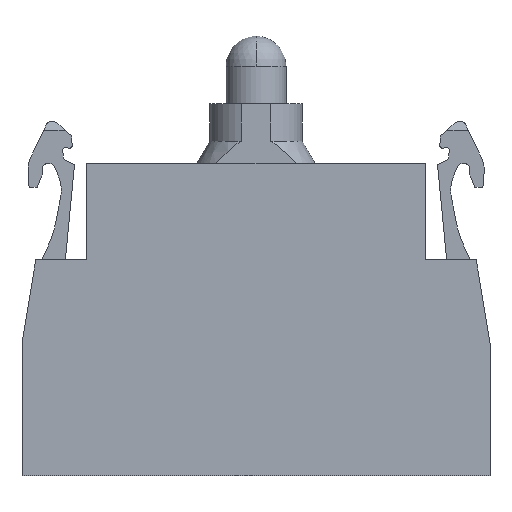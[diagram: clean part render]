
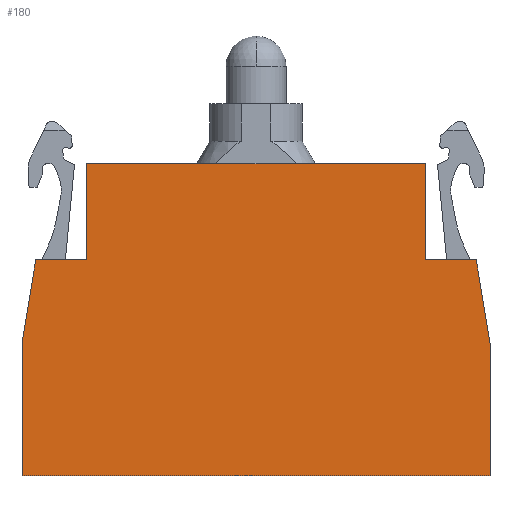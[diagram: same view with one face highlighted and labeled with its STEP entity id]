
A CAD part, left-side view. The second image highlights one B-rep face of the part: STEP entity #180.
In plain terms, the highlighted planar face has unit normal (-1, 0, 0).
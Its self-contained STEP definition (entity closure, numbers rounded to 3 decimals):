
#180 = ADVANCED_FACE( '', ( #397 ), #398, .F. );
#397 = FACE_OUTER_BOUND( '', #615, .T. );
#398 = PLANE( '', #616 );
#615 = EDGE_LOOP( '', ( #1518, #1519, #1520, #1521, #1522, #1523, #1524, #1525, #1526, #1527 ) );
#616 = AXIS2_PLACEMENT_3D( '', #1528, #1529, #1530 );
#1518 = ORIENTED_EDGE( '', *, *, #1827, .F. );
#1519 = ORIENTED_EDGE( '', *, *, #1582, .F. );
#1520 = ORIENTED_EDGE( '', *, *, #1844, .F. );
#1521 = ORIENTED_EDGE( '', *, *, #1841, .F. );
#1522 = ORIENTED_EDGE( '', *, *, #1838, .F. );
#1523 = ORIENTED_EDGE( '', *, *, #1835, .F. );
#1524 = ORIENTED_EDGE( '', *, *, #1823, .F. );
#1525 = ORIENTED_EDGE( '', *, *, #1821, .F. );
#1526 = ORIENTED_EDGE( '', *, *, #1833, .F. );
#1527 = ORIENTED_EDGE( '', *, *, #1830, .F. );
#1528 = CARTESIAN_POINT( '', ( -5., 0., 0. ) );
#1529 = DIRECTION( '', ( 1., 0., 0. ) );
#1530 = DIRECTION( '', ( 0., 0., -1. ) );
#1582 = EDGE_CURVE( '', #1910, #1912, #1913, .T. );
#1821 = EDGE_CURVE( '', #2309, #2311, #2312, .T. );
#1823 = EDGE_CURVE( '', #2311, #2314, #2315, .T. );
#1827 = EDGE_CURVE( '', #1912, #2320, #2321, .T. );
#1830 = EDGE_CURVE( '', #2320, #2325, #2326, .T. );
#1833 = EDGE_CURVE( '', #2325, #2309, #2330, .T. );
#1835 = EDGE_CURVE( '', #2314, #2332, #2333, .T. );
#1838 = EDGE_CURVE( '', #2332, #2337, #2338, .T. );
#1841 = EDGE_CURVE( '', #2337, #2342, #2343, .T. );
#1844 = EDGE_CURVE( '', #2342, #1910, #2347, .T. );
#1910 = VERTEX_POINT( '', #2464 );
#1912 = VERTEX_POINT( '', #2467 );
#1913 = LINE( '', #2468, #2469 );
#2309 = VERTEX_POINT( '', #3048 );
#2311 = VERTEX_POINT( '', #3051 );
#2312 = LINE( '', #3052, #3053 );
#2314 = VERTEX_POINT( '', #3056 );
#2315 = LINE( '', #3057, #3058 );
#2320 = VERTEX_POINT( '', #3066 );
#2321 = LINE( '', #3067, #3068 );
#2325 = VERTEX_POINT( '', #3074 );
#2326 = LINE( '', #3075, #3076 );
#2330 = LINE( '', #3082, #3083 );
#2332 = VERTEX_POINT( '', #3086 );
#2333 = LINE( '', #3087, #3088 );
#2337 = VERTEX_POINT( '', #3094 );
#2338 = LINE( '', #3095, #3096 );
#2342 = VERTEX_POINT( '', #3102 );
#2343 = LINE( '', #3103, #3104 );
#2347 = LINE( '', #3110, #3111 );
#2464 = CARTESIAN_POINT( '', ( -5., 14.1, 26. ) );
#2467 = CARTESIAN_POINT( '', ( -5., -14.1, 26. ) );
#2468 = CARTESIAN_POINT( '', ( -5., 14.1, 26. ) );
#2469 = VECTOR( '', #3184, 1. );
#3048 = CARTESIAN_POINT( '', ( -5., -19.5, 11. ) );
#3051 = CARTESIAN_POINT( '', ( -5., -19.5, 0. ) );
#3052 = CARTESIAN_POINT( '', ( -5., -19.5, 11. ) );
#3053 = VECTOR( '', #3531, 1. );
#3056 = CARTESIAN_POINT( '', ( -5., 19.5, 0. ) );
#3057 = CARTESIAN_POINT( '', ( -5., -19.5, 0. ) );
#3058 = VECTOR( '', #3533, 1. );
#3066 = CARTESIAN_POINT( '', ( -5., -14.1, 18. ) );
#3067 = CARTESIAN_POINT( '', ( -5., -14.1, 26. ) );
#3068 = VECTOR( '', #3537, 1. );
#3074 = CARTESIAN_POINT( '', ( -5., -18.348, 18. ) );
#3075 = CARTESIAN_POINT( '', ( -5., -14.1, 18. ) );
#3076 = VECTOR( '', #3540, 1. );
#3082 = CARTESIAN_POINT( '', ( -5., -18.348, 18. ) );
#3083 = VECTOR( '', #3543, 1. );
#3086 = CARTESIAN_POINT( '', ( -5., 19.5, 11. ) );
#3087 = CARTESIAN_POINT( '', ( -5., 19.5, 0. ) );
#3088 = VECTOR( '', #3545, 1. );
#3094 = CARTESIAN_POINT( '', ( -5., 18.348, 18. ) );
#3095 = CARTESIAN_POINT( '', ( -5., 19.5, 11. ) );
#3096 = VECTOR( '', #3548, 1. );
#3102 = CARTESIAN_POINT( '', ( -5., 14.1, 18. ) );
#3103 = CARTESIAN_POINT( '', ( -5., 18.348, 18. ) );
#3104 = VECTOR( '', #3551, 1. );
#3110 = CARTESIAN_POINT( '', ( -5., 14.1, 18. ) );
#3111 = VECTOR( '', #3554, 1. );
#3184 = DIRECTION( '', ( 0., -1., 0. ) );
#3531 = DIRECTION( '', ( 0., 0., -1. ) );
#3533 = DIRECTION( '', ( 0., 1., 0. ) );
#3537 = DIRECTION( '', ( 0., 0., -1. ) );
#3540 = DIRECTION( '', ( 0., -1., 0. ) );
#3543 = DIRECTION( '', ( 0., -0.162, -0.987 ) );
#3545 = DIRECTION( '', ( 0., 0., 1. ) );
#3548 = DIRECTION( '', ( 0., -0.162, 0.987 ) );
#3551 = DIRECTION( '', ( 0., -1., 0. ) );
#3554 = DIRECTION( '', ( 0., 0., 1. ) );
